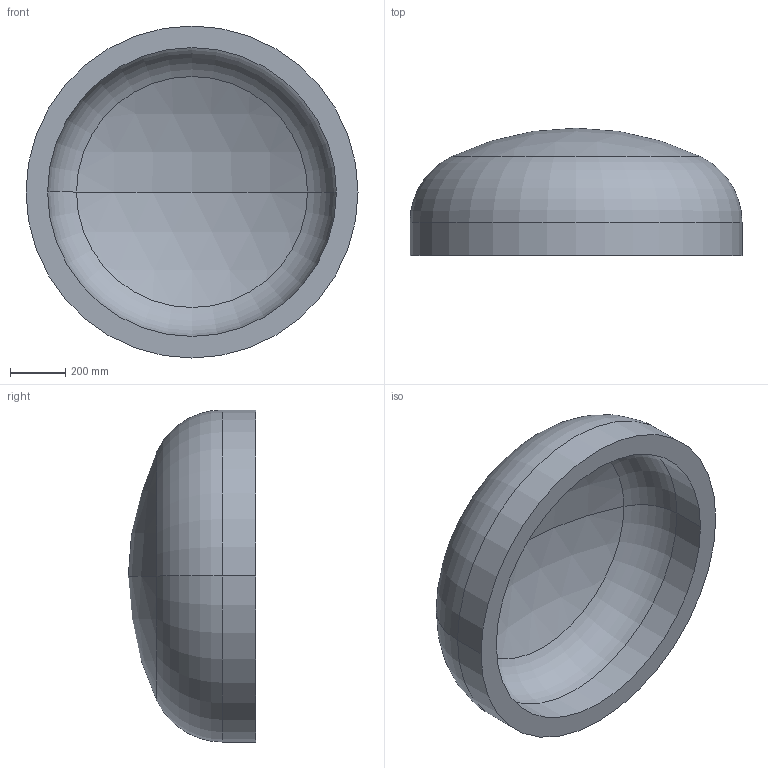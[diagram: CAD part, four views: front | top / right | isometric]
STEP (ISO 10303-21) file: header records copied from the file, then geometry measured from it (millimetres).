
FILE_DESCRIPTION (( 'STEP AP203' ), '1' );
FILE_NAME ('DIN 28013 Korbbogenform_-_Boden DIN 28013 - 1200 x 120 - I - s=78.step', '2016-07-01T09:34:51', ( '' ), ( '' ), 'SwSTEP 2.0', 'SolidWorks 2013', '' );
FILE_SCHEMA (( 'CONFIG_CONTROL_DESIGN' ));
Length unit declared in the file: millimetre
Products named in the file (1): DIN 28013 Korbbogenform_-_Boden DIN 28013 - 1200 x 120 - I - s=78
Bounding box: 1200 x 460.11 x 1200 mm (x, y, z)
Volume: 145517505.5 mm3; surface area: 4018899.2 mm2
Topology: 1 solids, 1 shells, 13 faces, 24 edges, 14 vertices
Faces by surface type: torus 4, cylinder 4, sphere 4, plane 1
Entity records: 407 total; most frequent: DIRECTION 72, CARTESIAN_POINT 52, ORIENTED_EDGE 48, AXIS2_PLACEMENT_3D 34, EDGE_CURVE 24, CIRCLE 20, VERTEX_POINT 14, EDGE_LOOP 14
